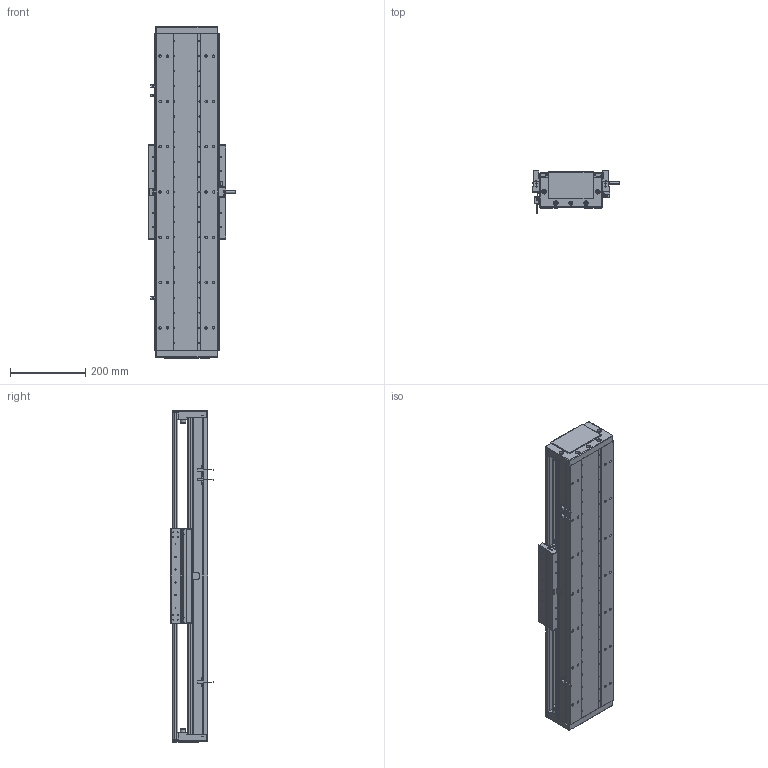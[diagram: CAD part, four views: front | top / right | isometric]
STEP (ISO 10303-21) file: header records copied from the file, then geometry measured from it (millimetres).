
FILE_DESCRIPTION (( 'STEP AP203' ), '1' );
FILE_NAME ('DA-C165-C3-T540-C010-0.2 直线电机.STEP', '2023-06-13T08:39:44', ( '微软用户' ), ( '微软中国' ), 'SwSTEP 2.0', 'SolidWorks 2019', '' );
FILE_SCHEMA (( 'CONFIG_CONTROL_DESIGN' ));
Length unit declared in the file: millimetre
Products named in the file (15): 复件 DA95-HXJ-00 缓冲橡胶^DA-C165-C3-T-C010-0.2-N 直线电机; 复件 DA165-DG-H-N-00 端盖^DA-C165-C3-T-C010-0.2-N 直线电机; 葩璃 PM-T45^DA-C165-C3-T-C010-0.2-N 眻盄萇儂; 复件 六角薄螺母 M3^DA-C165-C3-T-C010-0.2-N 直线电机_GB_FASTENER_NUT_STNAB M3-C; 珨极趙賑雄怢啣C3-wf; 复件 CU165 底座^IU-CU165-L 底座导轨_L840; DA-C165-C3-T540-C010-0.2 眻盄萇儂; 葩璃 CKM01-W075-TRL^DA-C165-C3-T-C010-0.2-N 眻盄萇儂; 葩璃 DA95-GT-T-00^IU-CU165-L 菁釱絳寢_T; 复件 DMA-010-0.2 读数头^DA-C165-C3-T-C010-0.2-N 直线电机; IU-CU165-L 菁釱絳寢; 葩璃 CKM03-W075-C1C2-TP-3.0^DA-C165-C3-T-C010-0.2-N 眻盄萇儂; 复件 XD-U-02L 磁栅尺^DA-C165-C3-T-C010-0.2-N 直线电机_T; 复件 DA165-T-002-00 盖板^DA-C165-C3-T-C010-0.2-N 直线电机_0840-002-00; 复件 DA165-GYP-00 光电感应片^DA-C165-C3-T-C010-0.2-N 直线电机
Assembly tree (30 placements, depth 3):
  DA-C165-C3-T540-C010-0.2 眻盄萇儂
    IU-CU165-L 菁釱絳寢
      复件 CU165 底座^IU-CU165-L 底座导轨_L840
      葩璃 DA95-GT-T-00^IU-CU165-L 菁釱絳寢_T  x4
    复件 DA165-DG-H-N-00 端盖^DA-C165-C3-T-C010-0.2-N 直线电机  x2
    复件 DA95-HXJ-00 缓冲橡胶^DA-C165-C3-T-C010-0.2-N 直线电机  x4
    复件 DA165-T-002-00 盖板^DA-C165-C3-T-C010-0.2-N 直线电机_0840-002-00
    复件 XD-U-02L 磁栅尺^DA-C165-C3-T-C010-0.2-N 直线电机_T
    葩璃 PM-T45^DA-C165-C3-T-C010-0.2-N 眻盄萇儂  x3
    葩璃 CKM01-W075-TRL^DA-C165-C3-T-C010-0.2-N 眻盄萇儂
    复件 DA165-GYP-00 光电感应片^DA-C165-C3-T-C010-0.2-N 直线电机
    复件 DMA-010-0.2 读数头^DA-C165-C3-T-C010-0.2-N 直线电机
    葩璃 CKM03-W075-C1C2-TP-3.0^DA-C165-C3-T-C010-0.2-N 眻盄萇儂
    复件 六角薄螺母 M3^DA-C165-C3-T-C010-0.2-N 直线电机_GB_FASTENER_NUT_STNAB M3-C  x8
    珨极趙賑雄怢啣C3-wf
Bounding box: 233 x 111.45 x 880 mm (x, y, z)
Volume: 7330664.3 mm3; surface area: 1902589.9 mm2
Topology: 68 solids, 118 shells, 3451 faces, 9112 edges, 5626 vertices
Faces by surface type: cylinder 1674, plane 1167, cone 552, torus 54, sphere 4
Entity records: 99853 total; most frequent: CARTESIAN_POINT 22848, DIRECTION 16072, ORIENTED_EDGE 15278, EDGE_CURVE 7639, AXIS2_PLACEMENT_3D 6078, VERTEX_POINT 4914, VECTOR 3916, LINE 3916
